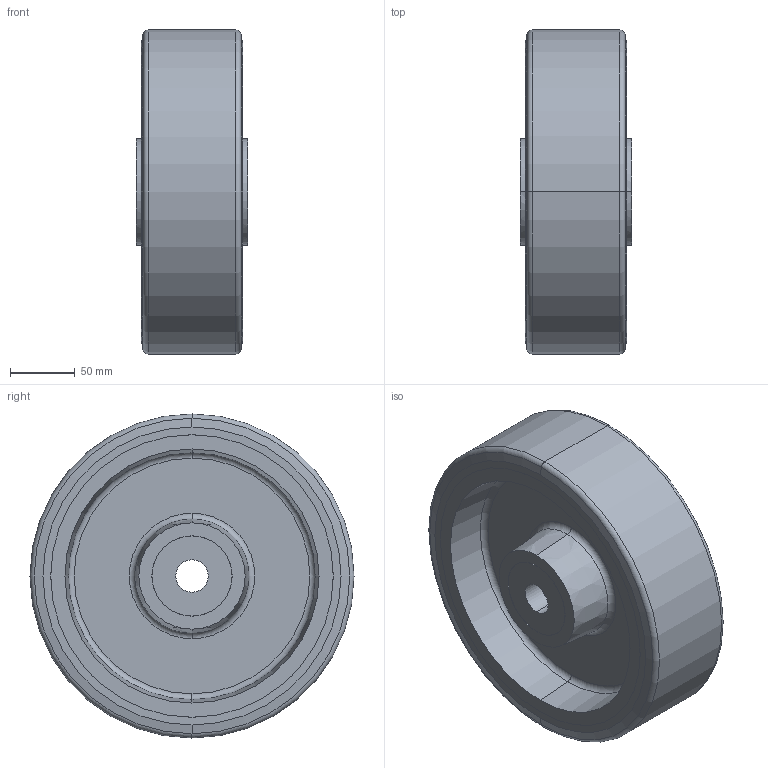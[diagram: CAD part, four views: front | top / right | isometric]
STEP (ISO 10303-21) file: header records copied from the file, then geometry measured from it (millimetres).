
FILE_DESCRIPTION (( 'STEP AP214' ), '1' );
FILE_NAME ('22887-250-K-A.step', '2024-10-28T09:27:01', ( '' ), ( '' ), 'SwSTEP 2.0', 'SolidWorks 2022', '' );
FILE_SCHEMA (( 'AUTOMOTIVE_DESIGN' ));
Length unit declared in the file: millimetre
Products named in the file (1): 22887-250-K-A
Bounding box: 86 x 250 x 250 mm (x, y, z)
Volume: 2135618.2 mm3; surface area: 222370.6 mm2
Topology: 1 solids, 1 shells, 64 faces, 128 edges, 80 vertices
Faces by surface type: cylinder 24, plane 16, cone 12, torus 12
Entity records: 1976 total; most frequent: DIRECTION 350, CARTESIAN_POINT 273, ORIENTED_EDGE 256, AXIS2_PLACEMENT_3D 157, EDGE_CURVE 128, CIRCLE 92, VERTEX_POINT 80, EDGE_LOOP 80
